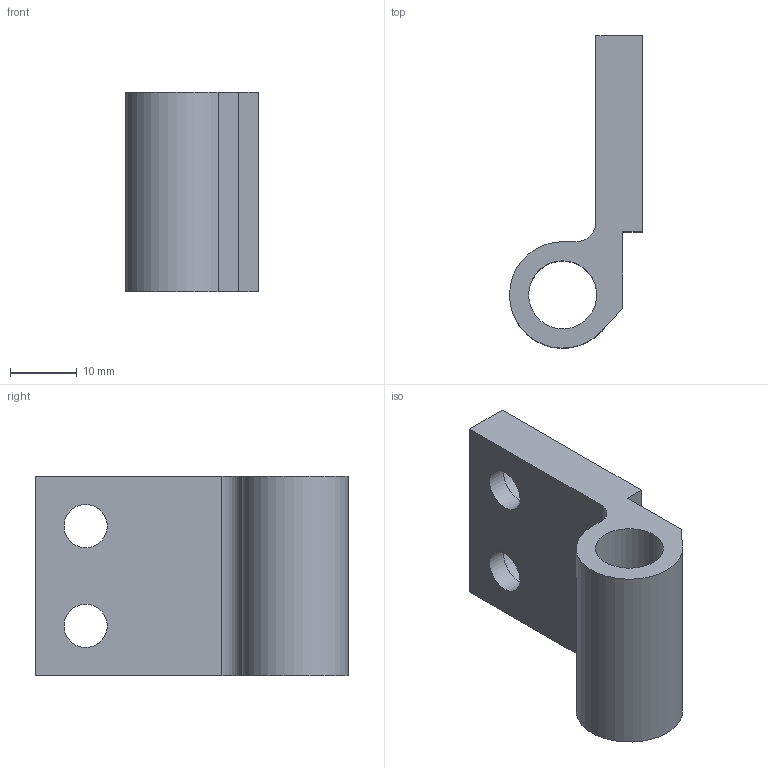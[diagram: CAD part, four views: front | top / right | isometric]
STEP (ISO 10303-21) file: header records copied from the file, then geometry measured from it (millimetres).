
FILE_DESCRIPTION (( 'STEP AP214' ), '1' );
FILE_NAME ('N50130.step', '2024-12-03T16:27:39', ( '' ), ( '' ), 'SwSTEP 2.0', 'SolidWorks 2023', '' );
FILE_SCHEMA (( 'AUTOMOTIVE_DESIGN' ));
Length unit declared in the file: millimetre
Products named in the file (1): N50130
Bounding box: 20 x 47 x 30 mm (x, y, z)
Volume: 9860.1 mm3; surface area: 5599 mm2
Topology: 1 solids, 1 shells, 18 faces, 42 edges, 28 vertices
Faces by surface type: plane 11, cylinder 7
Full cylindrical faces by diameter (mm): 6.5 x2, 10.25 x1, 10.5 x2
Entity records: 530 total; most frequent: DIRECTION 89, CARTESIAN_POINT 84, ORIENTED_EDGE 74, EDGE_CURVE 37, AXIS2_PLACEMENT_3D 33, EDGE_LOOP 31, VERTEX_POINT 28, VECTOR 23
